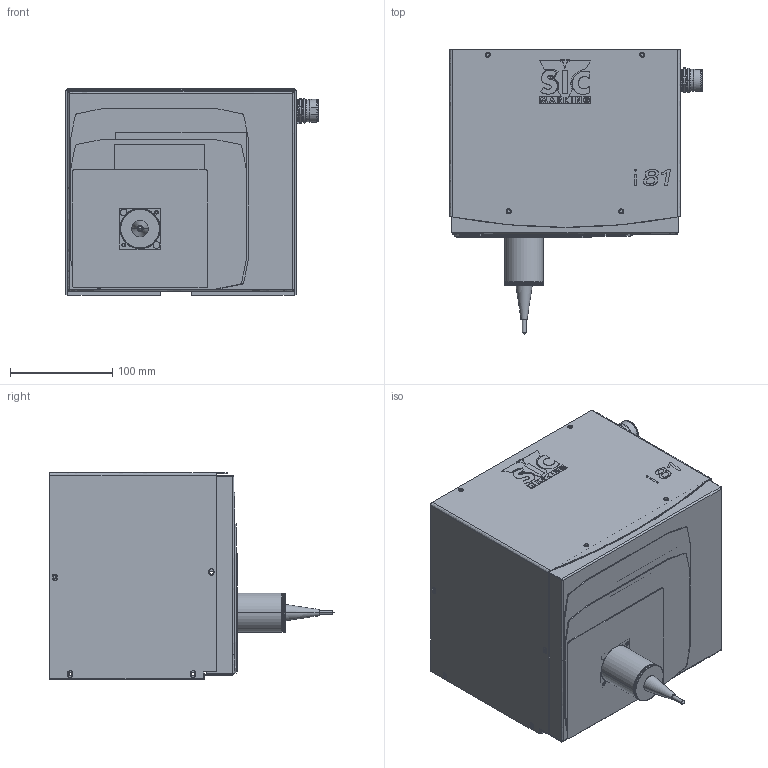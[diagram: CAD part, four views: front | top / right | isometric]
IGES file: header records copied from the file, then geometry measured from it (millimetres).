
Start section: SolidWorks IGES file using analytic representation for surfaces
Global section: file name: V:\02 - Spécifique\09 - Chiffrage\2010-TRIM2\Jérôme EMBAREK\i81-stylet 80\i81stylet de 80.IGS; native system: SolidWorks 2008; preprocessor: SolidWorks 2008; author: sic60; date: 100908.103836; units: millimetre
Bounding box: 246.5 x 278 x 201.6 mm (x, y, z)
Surface area: 482604.3 mm2 (no closed solid volume)
Topology: 0 solids, 0 shells, 645 faces, 10423 edges, 10383 vertices
Faces by surface type: revolution 363, bspline 282
